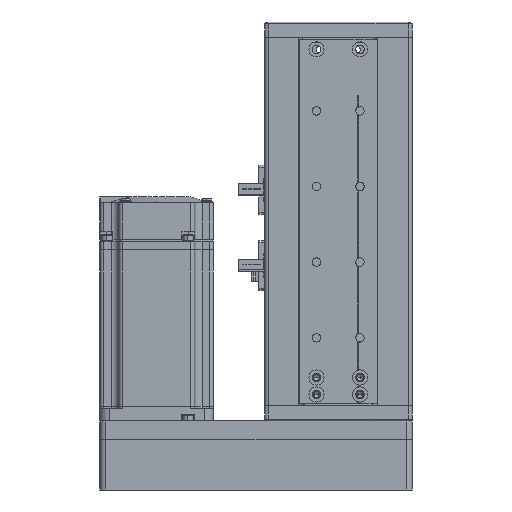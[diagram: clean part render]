
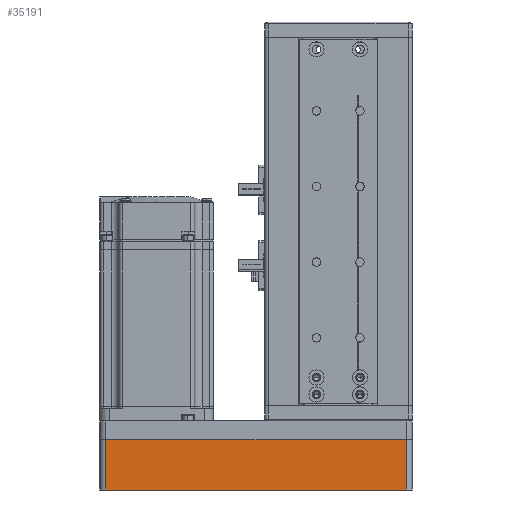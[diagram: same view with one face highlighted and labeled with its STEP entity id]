
A CAD part, front view. The second image highlights one B-rep face of the part: STEP entity #35191.
In plain terms, the highlighted planar face has unit normal (0, -1, 0).
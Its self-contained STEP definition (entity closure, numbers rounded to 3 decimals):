
#3362 = LINE ( 'NONE', #21039, #21245 ) ;
#4677 = CARTESIAN_POINT ( 'NONE',  ( 82.5, -30., 26.5 ) ) ;
#4821 = ORIENTED_EDGE ( 'NONE', *, *, #37046, .T. ) ;
#5264 = DIRECTION ( 'NONE',  ( 0., 0., -1. ) ) ;
#6139 = VERTEX_POINT ( 'NONE', #24090 ) ;
#6841 = DIRECTION ( 'NONE',  ( 0., 0., 1. ) ) ;
#8246 = DIRECTION ( 'NONE',  ( -1., 0., 0. ) ) ;
#9006 = VECTOR ( 'NONE', #44859, 1000. ) ;
#13233 = EDGE_CURVE ( 'NONE', #6139, #15631, #28447, .T. ) ;
#15631 = VERTEX_POINT ( 'NONE', #22229 ) ;
#15891 = CARTESIAN_POINT ( 'NONE',  ( -79.5, -30., 26.5 ) ) ;
#17145 = EDGE_CURVE ( 'NONE', #32188, #40373, #3362, .T. ) ;
#19648 = DIRECTION ( 'NONE',  ( 1., 0., 0. ) ) ;
#20582 = AXIS2_PLACEMENT_3D ( 'NONE', #4677, #29591, #8246 ) ;
#21039 = CARTESIAN_POINT ( 'NONE',  ( 79.5, -30., 26.5 ) ) ;
#21245 = VECTOR ( 'NONE', #6841, 1000. ) ;
#22229 = CARTESIAN_POINT ( 'NONE',  ( -79.5, -30., 0. ) ) ;
#22254 = LINE ( 'NONE', #37295, #30550 ) ;
#23848 = CARTESIAN_POINT ( 'NONE',  ( 82.5, -30., 0. ) ) ;
#24090 = CARTESIAN_POINT ( 'NONE',  ( -79.5, -30., 26.5 ) ) ;
#24162 = EDGE_LOOP ( 'NONE', ( #4821, #45315, #38132, #33255 ) ) ;
#27296 = VECTOR ( 'NONE', #5264, 1000. ) ;
#28447 = LINE ( 'NONE', #15891, #27296 ) ;
#29591 = DIRECTION ( 'NONE',  ( 0., 1., 0. ) ) ;
#30550 = VECTOR ( 'NONE', #19648, 1000. ) ;
#32188 = VERTEX_POINT ( 'NONE', #40368 ) ;
#33000 = PLANE ( 'NONE',  #20582 ) ;
#33255 = ORIENTED_EDGE ( 'NONE', *, *, #13233, .T. ) ;
#35191 = ADVANCED_FACE ( 'NONE', ( #37599 ), #33000, .F. ) ;
#36274 = LINE ( 'NONE', #23848, #9006 ) ;
#37046 = EDGE_CURVE ( 'NONE', #15631, #32188, #36274, .T. ) ;
#37295 = CARTESIAN_POINT ( 'NONE',  ( 82.5, -30., 26.5 ) ) ;
#37599 = FACE_OUTER_BOUND ( 'NONE', #24162, .T. ) ;
#37918 = EDGE_CURVE ( 'NONE', #6139, #40373, #22254, .T. ) ;
#38132 = ORIENTED_EDGE ( 'NONE', *, *, #37918, .F. ) ;
#40368 = CARTESIAN_POINT ( 'NONE',  ( 79.5, -30., 0. ) ) ;
#40373 = VERTEX_POINT ( 'NONE', #40754 ) ;
#40754 = CARTESIAN_POINT ( 'NONE',  ( 79.5, -30., 26.5 ) ) ;
#44859 = DIRECTION ( 'NONE',  ( 1., 0., 0. ) ) ;
#45315 = ORIENTED_EDGE ( 'NONE', *, *, #17145, .T. ) ;
